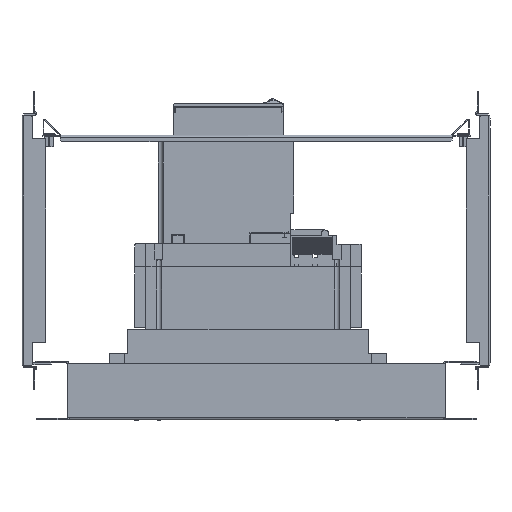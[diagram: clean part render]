
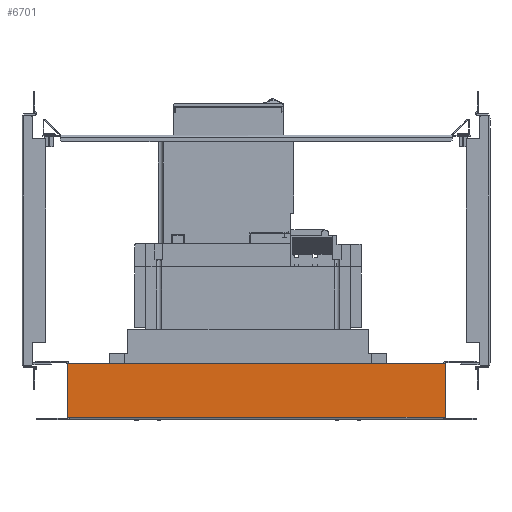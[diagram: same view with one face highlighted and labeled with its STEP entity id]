
A CAD part, front view. The second image highlights one B-rep face of the part: STEP entity #6701.
In plain terms, the highlighted planar face has unit normal (0, -1, 0).
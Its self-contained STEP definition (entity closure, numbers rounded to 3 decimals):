
#6096=CARTESIAN_POINT(' ',(-217.404,-120.242,-33.879));
#6097=VERTEX_POINT(' ',#6096);
#6111=CARTESIAN_POINT(' ',(-217.404,-120.242,-33.879));
#6116=DIRECTION(' ',(1.,0.,0.));
#6121=VECTOR(' ',#6116,1.);
#6126=LINE('',#6111,#6121);
#6131=CARTESIAN_POINT(' ',(207.796,-120.242,-33.879));
#6132=VERTEX_POINT(' ',#6131);
#6136=EDGE_CURVE(' ',#6097,#6132,#6126,.T.);
#6456=CARTESIAN_POINT(' ',(-217.404,-120.242,-94.579));
#6457=VERTEX_POINT(' ',#6456);
#6471=CARTESIAN_POINT(' ',(-217.404,-120.242,-94.579));
#6476=DIRECTION(' ',(0.,0.,1.));
#6481=VECTOR(' ',#6476,1.);
#6486=LINE('',#6471,#6481);
#6491=EDGE_CURVE(' ',#6457,#6097,#6486,.T.);
#6521=DIRECTION(' ',(0.,-1.,0.));
#6526=CARTESIAN_POINT(' ',(-217.404,-120.242,-33.879));
#6531=DIRECTION(' ',(0.,0.,-1.));
#6536=AXIS2_PLACEMENT_3D(' ',#6526,#6521,#6531);
#6541=PLANE('NONE',#6536);
#6546=ORIENTED_EDGE(' ',*,*,#6136,.F.);
#6551=ORIENTED_EDGE(' ',*,*,#6491,.F.);
#6556=CARTESIAN_POINT(' ',(-214.804,-120.242,-94.579));
#6561=DIRECTION(' ',(-1.,0.,0.));
#6566=VECTOR(' ',#6561,1.);
#6571=LINE('',#6556,#6566);
#6576=CARTESIAN_POINT(' ',(-214.804,-120.242,-94.579));
#6577=VERTEX_POINT(' ',#6576);
#6581=EDGE_CURVE(' ',#6577,#6457,#6571,.T.);
#6586=ORIENTED_EDGE(' ',*,*,#6581,.F.);
#6591=CARTESIAN_POINT(' ',(-214.804,-120.242,-94.579));
#6596=DIRECTION(' ',(1.,0.,0.));
#6601=VECTOR(' ',#6596,1.);
#6606=LINE('',#6591,#6601);
#6611=CARTESIAN_POINT(' ',(205.196,-120.242,-94.579));
#6612=VERTEX_POINT(' ',#6611);
#6616=EDGE_CURVE(' ',#6577,#6612,#6606,.T.);
#6621=ORIENTED_EDGE(' ',*,*,#6616,.T.);
#6626=CARTESIAN_POINT(' ',(205.196,-120.242,-94.579));
#6631=DIRECTION(' ',(1.,0.,0.));
#6636=VECTOR(' ',#6631,1.);
#6641=LINE('',#6626,#6636);
#6646=CARTESIAN_POINT(' ',(207.796,-120.242,-94.579));
#6647=VERTEX_POINT(' ',#6646);
#6651=EDGE_CURVE(' ',#6612,#6647,#6641,.T.);
#6656=ORIENTED_EDGE(' ',*,*,#6651,.T.);
#6661=CARTESIAN_POINT(' ',(207.796,-120.242,-94.579));
#6666=DIRECTION(' ',(0.,0.,1.));
#6671=VECTOR(' ',#6666,1.);
#6676=LINE('',#6661,#6671);
#6681=EDGE_CURVE(' ',#6647,#6132,#6676,.T.);
#6686=ORIENTED_EDGE(' ',*,*,#6681,.T.);
#6691=EDGE_LOOP(' ',(#6546,#6551,#6586,#6621,#6656,#6686));
#6696=FACE_OUTER_BOUND(' ',#6691,.T.);
#6701=ADVANCED_FACE('NONE',(#6696),#6541,.T.);
